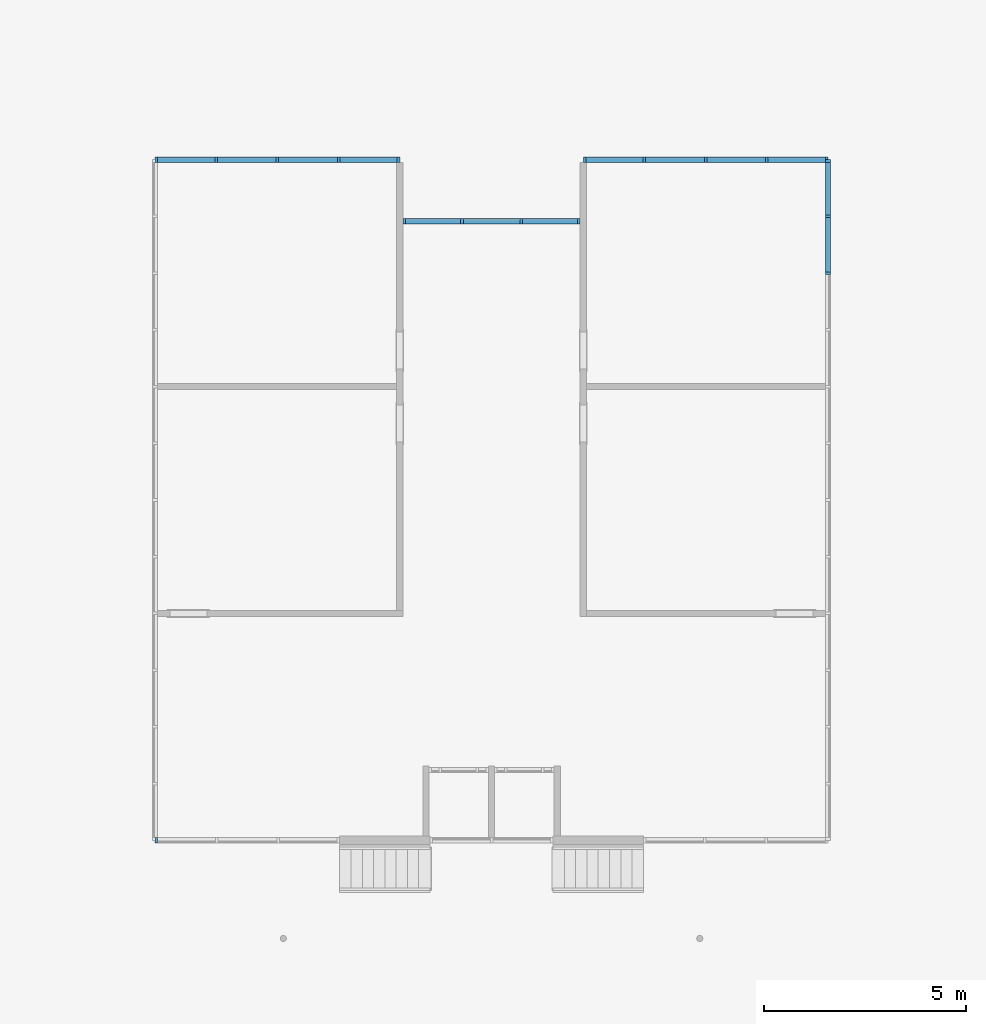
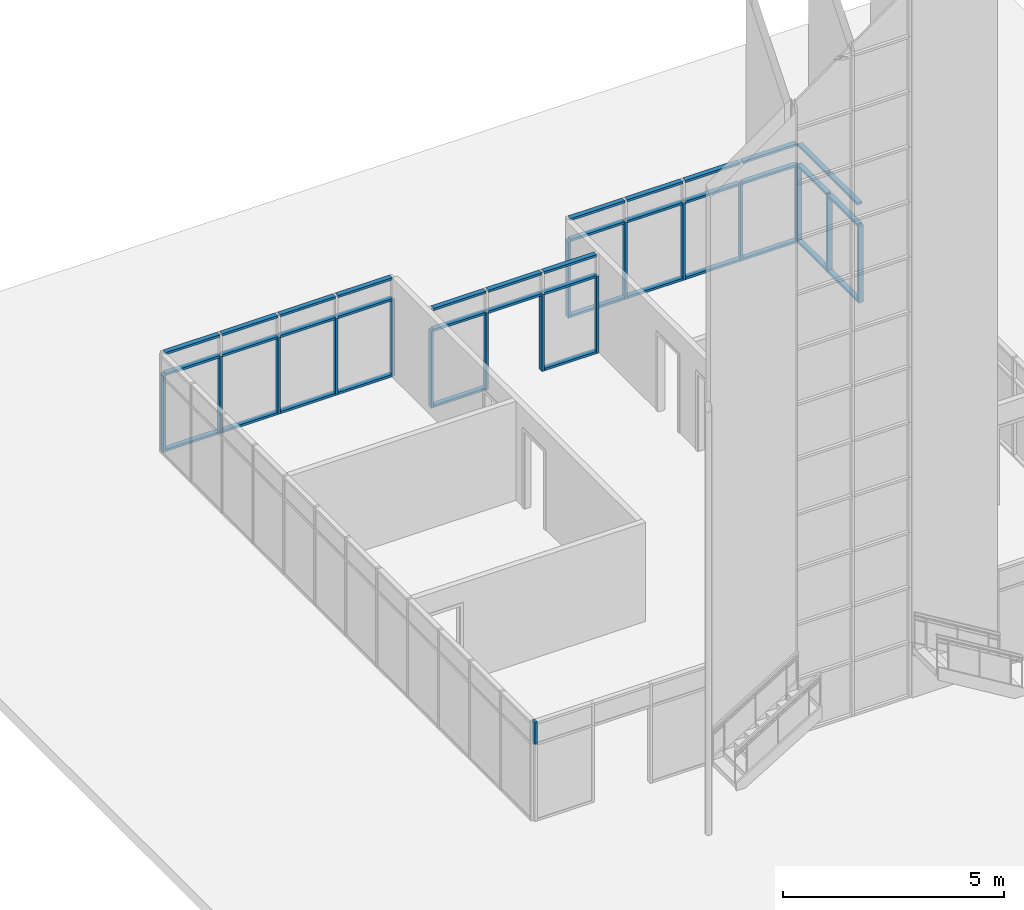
# One storey, part 4 of 12: 56 members, 5 elements without a shape of their own.
"""IFC2X3 building model written with IfcOpenShell, lengths in feet."""

from ifc_helpers import new_model, entity, si_unit, converted_unit, derived_unit, direction, frame, origin, origin_2d_with_axis, place, context, subcontext, project, spatial, rectangle, extrude, source, transform, mapped, material, type_object, type_shapes, element, aggregate, save


model = new_model("IFC2X3")

# Units and contexts
model_context = context("Model", 3, precision=0.0001, world=origin(), true_north=direction((6.12303176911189e-17, 1.0)))
body_context = subcontext(model_context, "Body", "Model", "MODEL_VIEW")
ifc_project = project(units=[converted_unit("LENGTHUNIT", "FOOT", entity("IfcRatioMeasure", 0.3048), si_unit("LENGTHUNIT", "METRE"), dimensions=[1, 0, 0, 0, 0, 0, 0]), converted_unit("AREAUNIT", "SQUARE FOOT", entity("IfcRatioMeasure", 0.09290304), si_unit("AREAUNIT", "SQUARE_METRE"), dimensions=[2, 0, 0, 0, 0, 0, 0]), converted_unit("VOLUMEUNIT", "CUBIC FOOT", entity("IfcRatioMeasure", 0.028316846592), si_unit("VOLUMEUNIT", "CUBIC_METRE"), dimensions=[3, 0, 0, 0, 0, 0, 0]), converted_unit("PLANEANGLEUNIT", "DEGREE", entity("IfcRatioMeasure", 0.0174532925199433), si_unit("PLANEANGLEUNIT", "RADIAN"), dimensions=[0, 0, 0, 0, 0, 0, 0]), si_unit("MASSUNIT", "GRAM", prefix="KILO"), derived_unit("MASSDENSITYUNIT", [(si_unit("MASSUNIT", "GRAM", prefix="KILO"), 1), (si_unit("LENGTHUNIT", "METRE"), -3)]), si_unit("TIMEUNIT", "SECOND"), si_unit("FREQUENCYUNIT", "HERTZ"), si_unit("THERMODYNAMICTEMPERATUREUNIT", "DEGREE_CELSIUS"), derived_unit("THERMALTRANSMITTANCEUNIT", [(si_unit("MASSUNIT", "GRAM", prefix="KILO"), 1), (si_unit("THERMODYNAMICTEMPERATUREUNIT", "KELVIN"), -1), (si_unit("TIMEUNIT", "SECOND"), -3)]), derived_unit("VOLUMETRICFLOWRATEUNIT", [(si_unit("LENGTHUNIT", "METRE"), 3), (si_unit("TIMEUNIT", "SECOND"), -1)]), si_unit("ELECTRICCURRENTUNIT", "AMPERE"), si_unit("ELECTRICVOLTAGEUNIT", "VOLT"), si_unit("POWERUNIT", "WATT"), si_unit("FORCEUNIT", "NEWTON"), si_unit("ILLUMINANCEUNIT", "LUX"), si_unit("LUMINOUSFLUXUNIT", "LUMEN"), si_unit("LUMINOUSINTENSITYUNIT", "CANDELA"), derived_unit("USERDEFINED", [(si_unit("MASSUNIT", "GRAM", prefix="KILO"), -1), (si_unit("LENGTHUNIT", "METRE"), -2), (si_unit("TIMEUNIT", "SECOND"), 3), (si_unit("LUMINOUSFLUXUNIT", "LUMEN"), 1)]), derived_unit("LINEARVELOCITYUNIT", [(si_unit("LENGTHUNIT", "METRE"), 1), (si_unit("TIMEUNIT", "SECOND"), -1)]), si_unit("PRESSUREUNIT", "PASCAL"), derived_unit("USERDEFINED", [(si_unit("LENGTHUNIT", "METRE"), -2), (si_unit("MASSUNIT", "GRAM", prefix="KILO"), 1), (si_unit("TIMEUNIT", "SECOND"), -2)])], contexts=[model_context])

# Site, building, storey
site_placement = place(None, origin())
site = spatial("IfcSite", under=ifc_project, at=site_placement, Name="Default", CompositionType="ELEMENT")
building_placement = place(site_placement, origin())
building = spatial("IfcBuilding", under=site, at=building_placement, CompositionType="ELEMENT")
storey_placement = place(building_placement, origin())
storey = spatial("IfcBuildingStorey", under=building, at=storey_placement, Name="Level 1", CompositionType="ELEMENT", Elevation=0.0)

# Curtain wall, member
curtain_wall_type = type_object("IfcCurtainWallType", Name="Curtain Wall:Storefront 2", PredefinedType="NOTDEFINED")
curtain_wall_1_placement = place(storey_placement, origin())
curtain_wall_1 = element("IfcCurtainWall", 1, at=curtain_wall_1_placement, inside=storey, type_object=curtain_wall_type, Name="Curtain Wall:Storefront 2", ObjectType="Curtain Wall:Storefront 2")
ifc_material = material(Name="Aluminum")
member_type_1 = type_object("IfcMemberType", Name="2.5\" x 5\" rectangular", PredefinedType="MEMBER")
shared_shape_1 = source(origin(), body_context, "Body", "SweptSolid", [
    extrude(rectangle(XDim=0.416666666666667, YDim=0.208333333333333, at=origin_2d_with_axis()), frame((-0.104166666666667, 0.0, -7.0), z_axis=(0.0, 0.0, 1.0), x_axis=(0.0, -1.0, 0.0)), (0.0, 0.0, 1.0), 7.0),
])
type_shapes(member_type_1, [shared_shape_1])
member_1_placement = place(storey_placement, frame((-41.4463748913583, 48.3505254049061, 0.0), z_axis=(0.0, 0.0, -1.0), x_axis=(1.0, 0.0, 0.0)))
member_1 = element("IfcMember", 2, at=member_1_placement, type_object=member_type_1, material=ifc_material, Name="Rectangular Mullion:2.5\" x 5\" rectangular", ObjectType="2.5\" x 5\" rectangular", context=body_context, shape_type="MappedRepresentation", body=[
    mapped(shared_shape_1, transform((0.0, 0.0, 0.0), scale=1.0)),
])

curtain_wall_2_placement = place(storey_placement, origin())
curtain_wall_2 = element("IfcCurtainWall", 3, at=curtain_wall_2_placement, inside=storey, type_object=curtain_wall_type, Name="Curtain Wall:Storefront 2", ObjectType="Curtain Wall:Storefront 2")
member_2_placement = place(storey_placement, frame((-6.65849610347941, 48.350525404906, 0.0), z_axis=(0.0, 0.0, -1.0), x_axis=(1.0, 0.0, 0.0)))
member_2 = element("IfcMember", 4, at=member_2_placement, type_object=member_type_1, material=ifc_material, Name="Rectangular Mullion:2.5\" x 5\" rectangular", ObjectType="2.5\" x 5\" rectangular", context=body_context, shape_type="MappedRepresentation", body=[
    mapped(shared_shape_1, transform((0.0, 0.0, 0.0), scale=1.0)),
])

curtain_wall_3_placement = place(storey_placement, origin())
curtain_wall_3 = element("IfcCurtainWall", 5, at=curtain_wall_3_placement, inside=storey, type_object=curtain_wall_type, Name="Curtain Wall:Storefront 2", ObjectType="Curtain Wall:Storefront 2")
member_3_placement = place(storey_placement, frame((-26.7872839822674, 43.350525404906, 0.0), z_axis=(0.0, 0.0, -1.0), x_axis=(1.0, 0.0, 0.0)))
member_3 = element("IfcMember", 6, at=member_3_placement, type_object=member_type_1, material=ifc_material, Name="Rectangular Mullion:2.5\" x 5\" rectangular", ObjectType="2.5\" x 5\" rectangular", context=body_context, shape_type="MappedRepresentation", body=[
    mapped(shared_shape_1, transform((0.0, 0.0, 0.0), scale=1.0)),
])

curtain_wall_4_placement = place(storey_placement, origin())
curtain_wall_4 = element("IfcCurtainWall", 7, at=curtain_wall_4_placement, inside=storey, type_object=curtain_wall_type, Name="Curtain Wall:Storefront 2", ObjectType="Curtain Wall:Storefront 2")
member_type_2 = type_object("IfcMemberType", Name="2.5\" x 5\" rectangular", PredefinedType="MEMBER")
shared_shape_2 = source(origin(), body_context, "Body", "SweptSolid", [
    extrude(rectangle(XDim=0.416666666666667, YDim=0.208333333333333, at=origin_2d_with_axis()), frame((-0.104166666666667, 0.0, -2.0), z_axis=(0.0, 0.0, 1.0), x_axis=(0.0, -1.0, 0.0)), (0.0, 0.0, 1.0), 2.0),
])
type_shapes(member_type_2, [shared_shape_2])
member_4_placement = place(storey_placement, frame((-61.3251627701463, -6.94114126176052, 7.0), z_axis=(0.0, 0.0, -1.0), x_axis=(-1.0, 0.0, 0.0)))
member_4 = element("IfcMember", 8, at=member_4_placement, type_object=member_type_2, material=ifc_material, Name="Rectangular Mullion:2.5\" x 5\" rectangular", ObjectType="2.5\" x 5\" rectangular", context=body_context, shape_type="MappedRepresentation", body=[
    mapped(shared_shape_2, transform((0.0, 0.0, 0.0), scale=1.0)),
])
aggregate(curtain_wall_4, [member_4])

# Member
member_type_3 = type_object("IfcMemberType", Name="2.5\" x 5\" rectangular", PredefinedType="MEMBER")
shared_shape_3 = source(origin(), body_context, "Body", "SweptSolid", [
    extrude(rectangle(XDim=0.416666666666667, YDim=0.208333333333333, at=origin_2d_with_axis()), frame((-0.104166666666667, 0.0, -7.0), z_axis=(0.0, 0.0, 1.0), x_axis=(0.0, -1.0, 0.0)), (0.0, 0.0, 1.0), 7.0),
])
type_shapes(member_type_3, [shared_shape_3])
member_5_placement = place(storey_placement, frame((-61.3251627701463, 48.3505254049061, 7.0), z_axis=(0.0, 0.0, 1.0), x_axis=(-1.0, 0.0, 0.0)))
member_5 = element("IfcMember", 9, at=member_5_placement, type_object=member_type_3, material=ifc_material, Name="Rectangular Mullion:2.5\" x 5\" rectangular", ObjectType="2.5\" x 5\" rectangular", context=body_context, shape_type="MappedRepresentation", body=[
    mapped(shared_shape_3, transform((0.0, 0.0, 0.0), scale=1.0)),
])

# Curtain wall, member
curtain_wall_5_placement = place(storey_placement, origin())
curtain_wall_5 = element("IfcCurtainWall", 10, at=curtain_wall_5_placement, inside=storey, type_object=curtain_wall_type, Name="Curtain Wall:Storefront 2", ObjectType="Curtain Wall:Storefront 2")
member_6_placement = place(storey_placement, frame((-6.65849610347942, 48.350525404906, 7.0), z_axis=(0.0, 0.0, 1.0), x_axis=(0.0, 1.0, 0.0)))
member_6 = element("IfcMember", 11, at=member_6_placement, type_object=member_type_3, material=ifc_material, Name="Rectangular Mullion:2.5\" x 5\" rectangular", ObjectType="2.5\" x 5\" rectangular", context=body_context, shape_type="MappedRepresentation", body=[
    mapped(shared_shape_3, transform((0.0, 0.0, 0.0), scale=1.0)),
])

# Member
member_7_placement = place(storey_placement, frame((-26.5372839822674, 48.350525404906, 7.0), z_axis=(0.0, 0.0, 1.0), x_axis=(-1.0, 0.0, 0.0)))
member_7 = element("IfcMember", 12, at=member_7_placement, type_object=member_type_3, material=ifc_material, Name="Rectangular Mullion:2.5\" x 5\" rectangular", ObjectType="2.5\" x 5\" rectangular", context=body_context, shape_type="MappedRepresentation", body=[
    mapped(shared_shape_3, transform((0.0, 0.0, 0.0), scale=1.0)),
])

member_8_placement = place(storey_placement, frame((-41.1963748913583, 43.3505254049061, 7.0), z_axis=(0.0, 0.0, 1.0), x_axis=(-1.0, 0.0, 0.0)))
member_8 = element("IfcMember", 13, at=member_8_placement, type_object=member_type_3, material=ifc_material, Name="Rectangular Mullion:2.5\" x 5\" rectangular", ObjectType="2.5\" x 5\" rectangular", context=body_context, shape_type="MappedRepresentation", body=[
    mapped(shared_shape_3, transform((0.0, 0.0, 0.0), scale=1.0)),
])

member_type_4 = type_object("IfcMemberType", Name="2.5\" x 5\" rectangular", PredefinedType="MEMBER")
shared_shape_4 = source(origin(), body_context, "Body", "SweptSolid", [
    extrude(rectangle(XDim=0.416666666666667, YDim=0.208333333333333, at=origin_2d_with_axis()), frame((0.0, 0.0, -7.0), z_axis=(0.0, 0.0, 1.0), x_axis=(0.0, -1.0, 0.0)), (0.0, 0.0, 1.0), 7.0),
])
type_shapes(member_type_4, [shared_shape_4])
member_9_placement = place(storey_placement, frame((-56.3554658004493, 48.3505254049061, 0.0), z_axis=(0.0, 0.0, -1.0), x_axis=(1.0, 0.0, 0.0)))
member_9 = element("IfcMember", 14, at=member_9_placement, type_object=member_type_4, material=ifc_material, Name="Rectangular Mullion:2.5\" x 5\" rectangular", ObjectType="2.5\" x 5\" rectangular", context=body_context, shape_type="MappedRepresentation", body=[
    mapped(shared_shape_4, transform((0.0, 0.0, 0.0), scale=1.0)),
])

member_10_placement = place(storey_placement, frame((-51.3857688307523, 48.3505254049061, 0.0), z_axis=(0.0, 0.0, -1.0), x_axis=(1.0, 0.0, 0.0)))
member_10 = element("IfcMember", 15, at=member_10_placement, type_object=member_type_4, material=ifc_material, Name="Rectangular Mullion:2.5\" x 5\" rectangular", ObjectType="2.5\" x 5\" rectangular", context=body_context, shape_type="MappedRepresentation", body=[
    mapped(shared_shape_4, transform((0.0, 0.0, 0.0), scale=1.0)),
])

member_11_placement = place(storey_placement, frame((-46.4160718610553, 48.3505254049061, 0.0), z_axis=(0.0, 0.0, -1.0), x_axis=(1.0, 0.0, 0.0)))
member_11 = element("IfcMember", 16, at=member_11_placement, type_object=member_type_4, material=ifc_material, Name="Rectangular Mullion:2.5\" x 5\" rectangular", ObjectType="2.5\" x 5\" rectangular", context=body_context, shape_type="MappedRepresentation", body=[
    mapped(shared_shape_4, transform((0.0, 0.0, 0.0), scale=1.0)),
])

member_12_placement = place(storey_placement, frame((-6.65849610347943, 43.7428865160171, 0.0), z_axis=(0.0, 0.0, -1.0), x_axis=(0.0, -1.0, 0.0)))
member_12 = element("IfcMember", 17, at=member_12_placement, type_object=member_type_4, material=ifc_material, Name="Rectangular Mullion:2.5\" x 5\" rectangular", ObjectType="2.5\" x 5\" rectangular", context=body_context, shape_type="MappedRepresentation", body=[
    mapped(shared_shape_4, transform((0.0, 0.0, 0.0), scale=1.0)),
])

member_13_placement = place(storey_placement, frame((-6.65849610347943, 39.1352476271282, 0.0), z_axis=(0.0, 0.0, -1.0), x_axis=(0.0, -1.0, 0.0)))
member_13 = element("IfcMember", 18, at=member_13_placement, type_object=member_type_4, material=ifc_material, Name="Rectangular Mullion:2.5\" x 5\" rectangular", ObjectType="2.5\" x 5\" rectangular", context=body_context, shape_type="MappedRepresentation", body=[
    mapped(shared_shape_4, transform((0.0, 0.0, 0.0), scale=1.0)),
])

member_14_placement = place(storey_placement, frame((-21.5675870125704, 48.350525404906, 0.0), z_axis=(0.0, 0.0, -1.0), x_axis=(1.0, 0.0, 0.0)))
member_14 = element("IfcMember", 19, at=member_14_placement, type_object=member_type_4, material=ifc_material, Name="Rectangular Mullion:2.5\" x 5\" rectangular", ObjectType="2.5\" x 5\" rectangular", context=body_context, shape_type="MappedRepresentation", body=[
    mapped(shared_shape_4, transform((0.0, 0.0, 0.0), scale=1.0)),
])

member_15_placement = place(storey_placement, frame((-16.5978900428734, 48.350525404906, 0.0), z_axis=(0.0, 0.0, -1.0), x_axis=(1.0, 0.0, 0.0)))
member_15 = element("IfcMember", 20, at=member_15_placement, type_object=member_type_4, material=ifc_material, Name="Rectangular Mullion:2.5\" x 5\" rectangular", ObjectType="2.5\" x 5\" rectangular", context=body_context, shape_type="MappedRepresentation", body=[
    mapped(shared_shape_4, transform((0.0, 0.0, 0.0), scale=1.0)),
])

member_16_placement = place(storey_placement, frame((-11.6281930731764, 48.350525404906, 0.0), z_axis=(0.0, 0.0, -1.0), x_axis=(1.0, 0.0, 0.0)))
member_16 = element("IfcMember", 21, at=member_16_placement, type_object=member_type_4, material=ifc_material, Name="Rectangular Mullion:2.5\" x 5\" rectangular", ObjectType="2.5\" x 5\" rectangular", context=body_context, shape_type="MappedRepresentation", body=[
    mapped(shared_shape_4, transform((0.0, 0.0, 0.0), scale=1.0)),
])

member_17_placement = place(storey_placement, frame((-36.393344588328, 43.3505254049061, 0.0), z_axis=(0.0, 0.0, -1.0), x_axis=(1.0, 0.0, 0.0)))
member_17 = element("IfcMember", 22, at=member_17_placement, type_object=member_type_4, material=ifc_material, Name="Rectangular Mullion:2.5\" x 5\" rectangular", ObjectType="2.5\" x 5\" rectangular", context=body_context, shape_type="MappedRepresentation", body=[
    mapped(shared_shape_4, transform((0.0, 0.0, 0.0), scale=1.0)),
])

member_18_placement = place(storey_placement, frame((-31.5903142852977, 43.350525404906, 0.0), z_axis=(0.0, 0.0, -1.0), x_axis=(1.0, 0.0, 0.0)))
member_18 = element("IfcMember", 23, at=member_18_placement, type_object=member_type_4, material=ifc_material, Name="Rectangular Mullion:2.5\" x 5\" rectangular", ObjectType="2.5\" x 5\" rectangular", context=body_context, shape_type="MappedRepresentation", body=[
    mapped(shared_shape_4, transform((0.0, 0.0, 0.0), scale=1.0)),
])

member_type_5 = type_object("IfcMemberType", Name="2.5\" x 5\" rectangular", PredefinedType="MEMBER")
shared_shape_5 = source(origin(), body_context, "Body", "SweptSolid", [
    extrude(rectangle(XDim=0.416666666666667, YDim=0.208333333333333, at=origin_2d_with_axis()), frame((-0.104166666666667, 0.0, -4.2951388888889), z_axis=(0.0, 0.0, 1.0), x_axis=(0.0, -1.0, 0.0)), (0.0, 0.0, 1.0), 4.2951388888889),
])
type_shapes(member_type_5, [shared_shape_5])
member_19_placement = place(storey_placement, frame((-6.65849610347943, 43.8470531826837, 9.0), z_axis=(0.0, -1.0, 0.0), x_axis=(0.0, 0.0, 1.0)))
member_19 = element("IfcMember", 24, at=member_19_placement, type_object=member_type_5, material=ifc_material, Name="Rectangular Mullion:2.5\" x 5\" rectangular", ObjectType="2.5\" x 5\" rectangular", context=body_context, shape_type="MappedRepresentation", body=[
    mapped(shared_shape_5, transform((0.0, 0.0, 0.0), scale=1.0)),
])

member_type_6 = type_object("IfcMemberType", Name="2.5\" x 5\" rectangular", PredefinedType="MEMBER")
shared_shape_6 = source(origin(), body_context, "Body", "SweptSolid", [
    extrude(rectangle(XDim=0.416666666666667, YDim=0.208333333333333, at=origin_2d_with_axis()), frame((-0.104166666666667, 0.0, -4.39930555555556), z_axis=(0.0, 0.0, 1.0), x_axis=(0.0, -1.0, 0.0)), (0.0, 0.0, 1.0), 4.39930555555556),
])
type_shapes(member_type_6, [shared_shape_6])
member_20_placement = place(storey_placement, frame((-6.65849610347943, 39.2394142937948, 9.0), z_axis=(0.0, -1.0, 0.0), x_axis=(0.0, 0.0, 1.0)))
member_20 = element("IfcMember", 25, at=member_20_placement, type_object=member_type_6, material=ifc_material, Name="Rectangular Mullion:2.5\" x 5\" rectangular", ObjectType="2.5\" x 5\" rectangular", context=body_context, shape_type="MappedRepresentation", body=[
    mapped(shared_shape_6, transform((0.0, 0.0, 0.0), scale=1.0)),
])

member_type_7 = type_object("IfcMemberType", Name="2.5\" x 5\" rectangular", PredefinedType="MEMBER")
shared_shape_7 = source(origin(), body_context, "Body", "SweptSolid", [
    extrude(rectangle(XDim=0.416666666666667, YDim=0.208333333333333, at=origin_2d_with_axis()), frame((-0.104166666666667, 0.0, -4.29513888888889), z_axis=(0.0, 0.0, 1.0), x_axis=(0.0, -1.0, 0.0)), (0.0, 0.0, 1.0), 4.29513888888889),
])
type_shapes(member_type_7, [shared_shape_7])
member_21_placement = place(storey_placement, frame((-6.65849610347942, 48.1421920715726, 0.0), z_axis=(0.0, 1.0, 0.0), x_axis=(0.0, 0.0, -1.0)))
member_21 = element("IfcMember", 26, at=member_21_placement, type_object=member_type_7, material=ifc_material, Name="Rectangular Mullion:2.5\" x 5\" rectangular", ObjectType="2.5\" x 5\" rectangular", context=body_context, shape_type="MappedRepresentation", body=[
    mapped(shared_shape_7, transform((0.0, 0.0, 0.0), scale=1.0)),
])

member_type_8 = type_object("IfcMemberType", Name="2.5\" x 5\" rectangular", PredefinedType="MEMBER")
shared_shape_8 = source(origin(), body_context, "Body", "SweptSolid", [
    extrude(rectangle(XDim=0.416666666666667, YDim=0.208333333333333, at=origin_2d_with_axis()), frame((-0.104166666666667, 0.0, -4.39930555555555), z_axis=(0.0, 0.0, 1.0), x_axis=(0.0, -1.0, 0.0)), (0.0, 0.0, 1.0), 4.39930555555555),
])
type_shapes(member_type_8, [shared_shape_8])
member_22_placement = place(storey_placement, frame((-6.65849610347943, 43.6387198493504, 0.0), z_axis=(0.0, 1.0, 0.0), x_axis=(0.0, 0.0, -1.0)))
member_22 = element("IfcMember", 27, at=member_22_placement, type_object=member_type_8, material=ifc_material, Name="Rectangular Mullion:2.5\" x 5\" rectangular", ObjectType="2.5\" x 5\" rectangular", context=body_context, shape_type="MappedRepresentation", body=[
    mapped(shared_shape_8, transform((0.0, 0.0, 0.0), scale=1.0)),
])

member_type_9 = type_object("IfcMemberType", Name="2.5\" x 5\" rectangular", PredefinedType="MEMBER")
shared_shape_9 = source(origin(), body_context, "Body", "SweptSolid", [
    extrude(rectangle(XDim=0.416666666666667, YDim=0.208333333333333, at=origin_2d_with_axis()), frame((0.0, 0.0, -4.29513888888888), z_axis=(0.0, 0.0, 1.0), x_axis=(0.0, -1.0, 0.0)), (0.0, 0.0, 1.0), 4.29513888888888),
])
type_shapes(member_type_9, [shared_shape_9])
member_23_placement = place(storey_placement, frame((-6.65849610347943, 43.8470531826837, 7.0), z_axis=(0.0, -1.0, 0.0), x_axis=(0.0, 0.0, 1.0)))
member_23 = element("IfcMember", 28, at=member_23_placement, type_object=member_type_9, material=ifc_material, Name="Rectangular Mullion:2.5\" x 5\" rectangular", ObjectType="2.5\" x 5\" rectangular", context=body_context, shape_type="MappedRepresentation", body=[
    mapped(shared_shape_9, transform((0.0, 0.0, 0.0), scale=1.0)),
])

member_type_10 = type_object("IfcMemberType", Name="2.5\" x 5\" rectangular", PredefinedType="MEMBER")
shared_shape_10 = source(origin(), body_context, "Body", "SweptSolid", [
    extrude(rectangle(XDim=0.416666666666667, YDim=0.208333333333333, at=origin_2d_with_axis()), frame((0.0, 0.0, -4.39930555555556), z_axis=(0.0, 0.0, 1.0), x_axis=(0.0, -1.0, 0.0)), (0.0, 0.0, 1.0), 4.39930555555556),
])
type_shapes(member_type_10, [shared_shape_10])
member_24_placement = place(storey_placement, frame((-6.65849610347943, 39.2394142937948, 7.0), z_axis=(0.0, -1.0, 0.0), x_axis=(0.0, 0.0, 1.0)))
member_24 = element("IfcMember", 29, at=member_24_placement, type_object=member_type_10, material=ifc_material, Name="Rectangular Mullion:2.5\" x 5\" rectangular", ObjectType="2.5\" x 5\" rectangular", context=body_context, shape_type="MappedRepresentation", body=[
    mapped(shared_shape_10, transform((0.0, 0.0, 0.0), scale=1.0)),
])

aggregate(curtain_wall_5, [member_19, member_20, member_21, member_22, member_6, member_23, member_24, member_12, member_13])

member_type_11 = type_object("IfcMemberType", Name="2.5\" x 5\" rectangular", PredefinedType="MEMBER")
shared_shape_11 = source(origin(), body_context, "Body", "SweptSolid", [
    extrude(rectangle(XDim=0.416666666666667, YDim=0.208333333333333, at=origin_2d_with_axis()), frame((-0.104166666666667, 0.0, -4.65719696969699), z_axis=(0.0, 0.0, 1.0), x_axis=(0.0, -1.0, 0.0)), (0.0, 0.0, 1.0), 4.65719696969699),
])
type_shapes(member_type_11, [shared_shape_11])
member_25_placement = place(storey_placement, frame((-41.6547082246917, 48.3505254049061, 9.0), z_axis=(1.0, 0.0, 0.0), x_axis=(0.0, 0.0, 1.0)))
member_25 = element("IfcMember", 30, at=member_25_placement, type_object=member_type_11, material=ifc_material, Name="Rectangular Mullion:2.5\" x 5\" rectangular", ObjectType="2.5\" x 5\" rectangular", context=body_context, shape_type="MappedRepresentation", body=[
    mapped(shared_shape_11, transform((0.0, 0.0, 0.0), scale=1.0)),
])

member_26_placement = place(storey_placement, frame((-56.4596324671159, 48.3505254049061, 9.0), z_axis=(1.0, 0.0, 0.0), x_axis=(0.0, 0.0, 1.0)))
member_26 = element("IfcMember", 31, at=member_26_placement, type_object=member_type_11, material=ifc_material, Name="Rectangular Mullion:2.5\" x 5\" rectangular", ObjectType="2.5\" x 5\" rectangular", context=body_context, shape_type="MappedRepresentation", body=[
    mapped(shared_shape_11, transform((0.0, 0.0, 0.0), scale=1.0)),
])

member_27_placement = place(storey_placement, frame((-6.86682943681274, 48.350525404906, 9.0), z_axis=(1.0, 0.0, 0.0), x_axis=(0.0, 0.0, 1.0)))
member_27 = element("IfcMember", 32, at=member_27_placement, type_object=member_type_11, material=ifc_material, Name="Rectangular Mullion:2.5\" x 5\" rectangular", ObjectType="2.5\" x 5\" rectangular", context=body_context, shape_type="MappedRepresentation", body=[
    mapped(shared_shape_11, transform((0.0, 0.0, 0.0), scale=1.0)),
])

member_28_placement = place(storey_placement, frame((-21.671753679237, 48.350525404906, 9.0), z_axis=(1.0, 0.0, 0.0), x_axis=(0.0, 0.0, 1.0)))
member_28 = element("IfcMember", 33, at=member_28_placement, type_object=member_type_11, material=ifc_material, Name="Rectangular Mullion:2.5\" x 5\" rectangular", ObjectType="2.5\" x 5\" rectangular", context=body_context, shape_type="MappedRepresentation", body=[
    mapped(shared_shape_11, transform((0.0, 0.0, 0.0), scale=1.0)),
])

member_type_12 = type_object("IfcMemberType", Name="2.5\" x 5\" rectangular", PredefinedType="MEMBER")
shared_shape_12 = source(origin(), body_context, "Body", "SweptSolid", [
    extrude(rectangle(XDim=0.416666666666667, YDim=0.208333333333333, at=origin_2d_with_axis()), frame((-0.104166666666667, 0.0, -4.76136363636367), z_axis=(0.0, 0.0, 1.0), x_axis=(0.0, -1.0, 0.0)), (0.0, 0.0, 1.0), 4.76136363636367),
])
type_shapes(member_type_12, [shared_shape_12])
member_29_placement = place(storey_placement, frame((-51.4899354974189, 48.3505254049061, 9.0), z_axis=(1.0, 0.0, 0.0), x_axis=(0.0, 0.0, 1.0)))
member_29 = element("IfcMember", 34, at=member_29_placement, type_object=member_type_12, material=ifc_material, Name="Rectangular Mullion:2.5\" x 5\" rectangular", ObjectType="2.5\" x 5\" rectangular", context=body_context, shape_type="MappedRepresentation", body=[
    mapped(shared_shape_12, transform((0.0, 0.0, 0.0), scale=1.0)),
])

member_30_placement = place(storey_placement, frame((-46.520238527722, 48.3505254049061, 9.0), z_axis=(1.0, 0.0, 0.0), x_axis=(0.0, 0.0, 1.0)))
member_30 = element("IfcMember", 35, at=member_30_placement, type_object=member_type_12, material=ifc_material, Name="Rectangular Mullion:2.5\" x 5\" rectangular", ObjectType="2.5\" x 5\" rectangular", context=body_context, shape_type="MappedRepresentation", body=[
    mapped(shared_shape_12, transform((0.0, 0.0, 0.0), scale=1.0)),
])

member_31_placement = place(storey_placement, frame((-16.70205670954, 48.350525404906, 9.0), z_axis=(1.0, 0.0, 0.0), x_axis=(0.0, 0.0, 1.0)))
member_31 = element("IfcMember", 36, at=member_31_placement, type_object=member_type_12, material=ifc_material, Name="Rectangular Mullion:2.5\" x 5\" rectangular", ObjectType="2.5\" x 5\" rectangular", context=body_context, shape_type="MappedRepresentation", body=[
    mapped(shared_shape_12, transform((0.0, 0.0, 0.0), scale=1.0)),
])

member_32_placement = place(storey_placement, frame((-11.7323597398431, 48.350525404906, 9.0), z_axis=(1.0, 0.0, 0.0), x_axis=(0.0, 0.0, 1.0)))
member_32 = element("IfcMember", 37, at=member_32_placement, type_object=member_type_12, material=ifc_material, Name="Rectangular Mullion:2.5\" x 5\" rectangular", ObjectType="2.5\" x 5\" rectangular", context=body_context, shape_type="MappedRepresentation", body=[
    mapped(shared_shape_12, transform((0.0, 0.0, 0.0), scale=1.0)),
])

member_type_13 = type_object("IfcMemberType", Name="2.5\" x 5\" rectangular", PredefinedType="MEMBER")
shared_shape_13 = source(origin(), body_context, "Body", "SweptSolid", [
    extrude(rectangle(XDim=0.416666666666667, YDim=0.208333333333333, at=origin_2d_with_axis()), frame((-0.104166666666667, 0.0, -4.65719696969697), z_axis=(0.0, 0.0, 1.0), x_axis=(0.0, -1.0, 0.0)), (0.0, 0.0, 1.0), 4.65719696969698),
])
type_shapes(member_type_13, [shared_shape_13])
member_33_placement = place(storey_placement, frame((-61.1168294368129, 48.3505254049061, 0.0), z_axis=(-1.0, 0.0, 0.0), x_axis=(0.0, 0.0, -1.0)))
member_33 = element("IfcMember", 38, at=member_33_placement, type_object=member_type_13, material=ifc_material, Name="Rectangular Mullion:2.5\" x 5\" rectangular", ObjectType="2.5\" x 5\" rectangular", context=body_context, shape_type="MappedRepresentation", body=[
    mapped(shared_shape_13, transform((0.0, 0.0, 0.0), scale=1.0)),
])

member_34_placement = place(storey_placement, frame((-46.3119051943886, 48.3505254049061, 0.0), z_axis=(-1.0, 0.0, 0.0), x_axis=(0.0, 0.0, -1.0)))
member_34 = element("IfcMember", 39, at=member_34_placement, type_object=member_type_13, material=ifc_material, Name="Rectangular Mullion:2.5\" x 5\" rectangular", ObjectType="2.5\" x 5\" rectangular", context=body_context, shape_type="MappedRepresentation", body=[
    mapped(shared_shape_13, transform((0.0, 0.0, 0.0), scale=1.0)),
])

member_35_placement = place(storey_placement, frame((-26.328950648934, 48.350525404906, 0.0), z_axis=(-1.0, 0.0, 0.0), x_axis=(0.0, 0.0, -1.0)))
member_35 = element("IfcMember", 40, at=member_35_placement, type_object=member_type_13, material=ifc_material, Name="Rectangular Mullion:2.5\" x 5\" rectangular", ObjectType="2.5\" x 5\" rectangular", context=body_context, shape_type="MappedRepresentation", body=[
    mapped(shared_shape_13, transform((0.0, 0.0, 0.0), scale=1.0)),
])

member_36_placement = place(storey_placement, frame((-11.5240264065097, 48.350525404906, 0.0), z_axis=(-1.0, 0.0, 0.0), x_axis=(0.0, 0.0, -1.0)))
member_36 = element("IfcMember", 41, at=member_36_placement, type_object=member_type_13, material=ifc_material, Name="Rectangular Mullion:2.5\" x 5\" rectangular", ObjectType="2.5\" x 5\" rectangular", context=body_context, shape_type="MappedRepresentation", body=[
    mapped(shared_shape_13, transform((0.0, 0.0, 0.0), scale=1.0)),
])

member_type_14 = type_object("IfcMemberType", Name="2.5\" x 5\" rectangular", PredefinedType="MEMBER")
shared_shape_14 = source(origin(), body_context, "Body", "SweptSolid", [
    extrude(rectangle(XDim=0.416666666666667, YDim=0.208333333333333, at=origin_2d_with_axis()), frame((-0.104166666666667, 0.0, -4.76136363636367), z_axis=(0.0, 0.0, 1.0), x_axis=(0.0, -1.0, 0.0)), (0.0, 0.0, 1.0), 4.76136363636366),
])
type_shapes(member_type_14, [shared_shape_14])
member_37_placement = place(storey_placement, frame((-56.2512991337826, 48.3505254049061, 0.0), z_axis=(-1.0, 0.0, 0.0), x_axis=(0.0, 0.0, -1.0)))
member_37 = element("IfcMember", 42, at=member_37_placement, type_object=member_type_14, material=ifc_material, Name="Rectangular Mullion:2.5\" x 5\" rectangular", ObjectType="2.5\" x 5\" rectangular", context=body_context, shape_type="MappedRepresentation", body=[
    mapped(shared_shape_14, transform((0.0, 0.0, 0.0), scale=1.0)),
])

member_38_placement = place(storey_placement, frame((-51.2816021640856, 48.3505254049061, 0.0), z_axis=(-1.0, 0.0, 0.0), x_axis=(0.0, 0.0, -1.0)))
member_38 = element("IfcMember", 43, at=member_38_placement, type_object=member_type_14, material=ifc_material, Name="Rectangular Mullion:2.5\" x 5\" rectangular", ObjectType="2.5\" x 5\" rectangular", context=body_context, shape_type="MappedRepresentation", body=[
    mapped(shared_shape_14, transform((0.0, 0.0, 0.0), scale=1.0)),
])

member_39_placement = place(storey_placement, frame((-21.4634203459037, 48.350525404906, 0.0), z_axis=(-1.0, 0.0, 0.0), x_axis=(0.0, 0.0, -1.0)))
member_39 = element("IfcMember", 44, at=member_39_placement, type_object=member_type_14, material=ifc_material, Name="Rectangular Mullion:2.5\" x 5\" rectangular", ObjectType="2.5\" x 5\" rectangular", context=body_context, shape_type="MappedRepresentation", body=[
    mapped(shared_shape_14, transform((0.0, 0.0, 0.0), scale=1.0)),
])

member_40_placement = place(storey_placement, frame((-16.4937233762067, 48.350525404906, 0.0), z_axis=(-1.0, 0.0, 0.0), x_axis=(0.0, 0.0, -1.0)))
member_40 = element("IfcMember", 45, at=member_40_placement, type_object=member_type_14, material=ifc_material, Name="Rectangular Mullion:2.5\" x 5\" rectangular", ObjectType="2.5\" x 5\" rectangular", context=body_context, shape_type="MappedRepresentation", body=[
    mapped(shared_shape_14, transform((0.0, 0.0, 0.0), scale=1.0)),
])

member_type_15 = type_object("IfcMemberType", Name="2.5\" x 5\" rectangular", PredefinedType="MEMBER")
shared_shape_15 = source(origin(), body_context, "Body", "SweptSolid", [
    extrude(rectangle(XDim=0.416666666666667, YDim=0.208333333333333, at=origin_2d_with_axis()), frame((0.0, 0.0, -4.65719696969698), z_axis=(0.0, 0.0, 1.0), x_axis=(0.0, -1.0, 0.0)), (0.0, 0.0, 1.0), 4.65719696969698),
])
type_shapes(member_type_15, [shared_shape_15])
member_41_placement = place(storey_placement, frame((-56.4596324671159, 48.3505254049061, 7.0), z_axis=(1.0, 0.0, 0.0), x_axis=(0.0, 0.0, 1.0)))
member_41 = element("IfcMember", 46, at=member_41_placement, type_object=member_type_15, material=ifc_material, Name="Rectangular Mullion:2.5\" x 5\" rectangular", ObjectType="2.5\" x 5\" rectangular", context=body_context, shape_type="MappedRepresentation", body=[
    mapped(shared_shape_15, transform((0.0, 0.0, 0.0), scale=1.0)),
])

member_42_placement = place(storey_placement, frame((-41.6547082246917, 48.3505254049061, 7.0), z_axis=(1.0, 0.0, 0.0), x_axis=(0.0, 0.0, 1.0)))
member_42 = element("IfcMember", 47, at=member_42_placement, type_object=member_type_15, material=ifc_material, Name="Rectangular Mullion:2.5\" x 5\" rectangular", ObjectType="2.5\" x 5\" rectangular", context=body_context, shape_type="MappedRepresentation", body=[
    mapped(shared_shape_15, transform((0.0, 0.0, 0.0), scale=1.0)),
])

member_43_placement = place(storey_placement, frame((-21.671753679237, 48.350525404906, 7.0), z_axis=(1.0, 0.0, 0.0), x_axis=(0.0, 0.0, 1.0)))
member_43 = element("IfcMember", 48, at=member_43_placement, type_object=member_type_15, material=ifc_material, Name="Rectangular Mullion:2.5\" x 5\" rectangular", ObjectType="2.5\" x 5\" rectangular", context=body_context, shape_type="MappedRepresentation", body=[
    mapped(shared_shape_15, transform((0.0, 0.0, 0.0), scale=1.0)),
])

member_44_placement = place(storey_placement, frame((-6.86682943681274, 48.350525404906, 7.0), z_axis=(1.0, 0.0, 0.0), x_axis=(0.0, 0.0, 1.0)))
member_44 = element("IfcMember", 49, at=member_44_placement, type_object=member_type_15, material=ifc_material, Name="Rectangular Mullion:2.5\" x 5\" rectangular", ObjectType="2.5\" x 5\" rectangular", context=body_context, shape_type="MappedRepresentation", body=[
    mapped(shared_shape_15, transform((0.0, 0.0, 0.0), scale=1.0)),
])

member_type_16 = type_object("IfcMemberType", Name="2.5\" x 5\" rectangular", PredefinedType="MEMBER")
shared_shape_16 = source(origin(), body_context, "Body", "SweptSolid", [
    extrude(rectangle(XDim=0.416666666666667, YDim=0.208333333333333, at=origin_2d_with_axis()), frame((0.0, 0.0, -4.76136363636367), z_axis=(0.0, 0.0, 1.0), x_axis=(0.0, -1.0, 0.0)), (0.0, 0.0, 1.0), 4.76136363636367),
])
type_shapes(member_type_16, [shared_shape_16])
member_45_placement = place(storey_placement, frame((-51.4899354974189, 48.3505254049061, 7.0), z_axis=(1.0, 0.0, 0.0), x_axis=(0.0, 0.0, 1.0)))
member_45 = element("IfcMember", 50, at=member_45_placement, type_object=member_type_16, material=ifc_material, Name="Rectangular Mullion:2.5\" x 5\" rectangular", ObjectType="2.5\" x 5\" rectangular", context=body_context, shape_type="MappedRepresentation", body=[
    mapped(shared_shape_16, transform((0.0, 0.0, 0.0), scale=1.0)),
])

member_46_placement = place(storey_placement, frame((-46.520238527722, 48.3505254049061, 7.0), z_axis=(1.0, 0.0, 0.0), x_axis=(0.0, 0.0, 1.0)))
member_46 = element("IfcMember", 51, at=member_46_placement, type_object=member_type_16, material=ifc_material, Name="Rectangular Mullion:2.5\" x 5\" rectangular", ObjectType="2.5\" x 5\" rectangular", context=body_context, shape_type="MappedRepresentation", body=[
    mapped(shared_shape_16, transform((0.0, 0.0, 0.0), scale=1.0)),
])

aggregate(curtain_wall_1, [member_25, member_26, member_29, member_30, member_33, member_37, member_38, member_34, member_1, member_5, member_41, member_45, member_46, member_42, member_9, member_10, member_11])

member_47_placement = place(storey_placement, frame((-16.70205670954, 48.350525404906, 7.0), z_axis=(1.0, 0.0, 0.0), x_axis=(0.0, 0.0, 1.0)))
member_47 = element("IfcMember", 52, at=member_47_placement, type_object=member_type_16, material=ifc_material, Name="Rectangular Mullion:2.5\" x 5\" rectangular", ObjectType="2.5\" x 5\" rectangular", context=body_context, shape_type="MappedRepresentation", body=[
    mapped(shared_shape_16, transform((0.0, 0.0, 0.0), scale=1.0)),
])

member_48_placement = place(storey_placement, frame((-11.7323597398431, 48.350525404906, 7.0), z_axis=(1.0, 0.0, 0.0), x_axis=(0.0, 0.0, 1.0)))
member_48 = element("IfcMember", 53, at=member_48_placement, type_object=member_type_16, material=ifc_material, Name="Rectangular Mullion:2.5\" x 5\" rectangular", ObjectType="2.5\" x 5\" rectangular", context=body_context, shape_type="MappedRepresentation", body=[
    mapped(shared_shape_16, transform((0.0, 0.0, 0.0), scale=1.0)),
])

aggregate(curtain_wall_2, [member_27, member_28, member_31, member_32, member_35, member_39, member_40, member_36, member_2, member_7, member_43, member_47, member_48, member_44, member_14, member_15, member_16])

member_type_17 = type_object("IfcMemberType", Name="2.5\" x 5\" rectangular", PredefinedType="MEMBER")
shared_shape_17 = source(origin(), body_context, "Body", "SweptSolid", [
    extrude(rectangle(XDim=0.416666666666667, YDim=0.208333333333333, at=origin_2d_with_axis()), frame((-0.104166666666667, 0.0, -4.49053030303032), z_axis=(0.0, 0.0, 1.0), x_axis=(0.0, -1.0, 0.0)), (0.0, 0.0, 1.0), 4.49053030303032),
])
type_shapes(member_type_17, [shared_shape_17])
member_49_placement = place(storey_placement, frame((-26.9956173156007, 43.350525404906, 9.0), z_axis=(1.0, 0.0, 0.0), x_axis=(0.0, 0.0, 1.0)))
member_49 = element("IfcMember", 54, at=member_49_placement, type_object=member_type_17, material=ifc_material, Name="Rectangular Mullion:2.5\" x 5\" rectangular", ObjectType="2.5\" x 5\" rectangular", context=body_context, shape_type="MappedRepresentation", body=[
    mapped(shared_shape_17, transform((0.0, 0.0, 0.0), scale=1.0)),
])

member_50_placement = place(storey_placement, frame((-36.4975112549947, 43.3505254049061, 9.0), z_axis=(1.0, 0.0, 0.0), x_axis=(0.0, 0.0, 1.0)))
member_50 = element("IfcMember", 55, at=member_50_placement, type_object=member_type_17, material=ifc_material, Name="Rectangular Mullion:2.5\" x 5\" rectangular", ObjectType="2.5\" x 5\" rectangular", context=body_context, shape_type="MappedRepresentation", body=[
    mapped(shared_shape_17, transform((0.0, 0.0, 0.0), scale=1.0)),
])

member_type_18 = type_object("IfcMemberType", Name="2.5\" x 5\" rectangular", PredefinedType="MEMBER")
shared_shape_18 = source(origin(), body_context, "Body", "SweptSolid", [
    extrude(rectangle(XDim=0.416666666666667, YDim=0.208333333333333, at=origin_2d_with_axis()), frame((-0.104166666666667, 0.0, -4.59469696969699), z_axis=(0.0, 0.0, 1.0), x_axis=(0.0, -1.0, 0.0)), (0.0, 0.0, 1.0), 4.59469696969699),
])
type_shapes(member_type_18, [shared_shape_18])
member_51_placement = place(storey_placement, frame((-31.6944809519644, 43.350525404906, 9.0), z_axis=(1.0, 0.0, 0.0), x_axis=(0.0, 0.0, 1.0)))
member_51 = element("IfcMember", 56, at=member_51_placement, type_object=member_type_18, material=ifc_material, Name="Rectangular Mullion:2.5\" x 5\" rectangular", ObjectType="2.5\" x 5\" rectangular", context=body_context, shape_type="MappedRepresentation", body=[
    mapped(shared_shape_18, transform((0.0, 0.0, 0.0), scale=1.0)),
])

member_type_19 = type_object("IfcMemberType", Name="2.5\" x 5\" rectangular", PredefinedType="MEMBER")
shared_shape_19 = source(origin(), body_context, "Body", "SweptSolid", [
    extrude(rectangle(XDim=0.416666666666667, YDim=0.208333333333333, at=origin_2d_with_axis()), frame((-0.104166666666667, 0.0, -4.49053030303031), z_axis=(0.0, 0.0, 1.0), x_axis=(0.0, -1.0, 0.0)), (0.0, 0.0, 1.0), 4.49053030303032),
])
type_shapes(member_type_19, [shared_shape_19])
member_52_placement = place(storey_placement, frame((-40.988041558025, 43.3505254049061, 0.0), z_axis=(-1.0, 0.0, 0.0), x_axis=(0.0, 0.0, -1.0)))
member_52 = element("IfcMember", 57, at=member_52_placement, type_object=member_type_19, material=ifc_material, Name="Rectangular Mullion:2.5\" x 5\" rectangular", ObjectType="2.5\" x 5\" rectangular", context=body_context, shape_type="MappedRepresentation", body=[
    mapped(shared_shape_19, transform((0.0, 0.0, 0.0), scale=1.0)),
])

member_53_placement = place(storey_placement, frame((-31.486147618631, 43.350525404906, 0.0), z_axis=(-1.0, 0.0, 0.0), x_axis=(0.0, 0.0, -1.0)))
member_53 = element("IfcMember", 58, at=member_53_placement, type_object=member_type_19, material=ifc_material, Name="Rectangular Mullion:2.5\" x 5\" rectangular", ObjectType="2.5\" x 5\" rectangular", context=body_context, shape_type="MappedRepresentation", body=[
    mapped(shared_shape_19, transform((0.0, 0.0, 0.0), scale=1.0)),
])

member_type_20 = type_object("IfcMemberType", Name="2.5\" x 5\" rectangular", PredefinedType="MEMBER")
shared_shape_20 = source(origin(), body_context, "Body", "SweptSolid", [
    extrude(rectangle(XDim=0.416666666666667, YDim=0.208333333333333, at=origin_2d_with_axis()), frame((0.0, 0.0, -4.49053030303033), z_axis=(0.0, 0.0, 1.0), x_axis=(0.0, -1.0, 0.0)), (0.0, 0.0, 1.0), 4.49053030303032),
])
type_shapes(member_type_20, [shared_shape_20])
member_54_placement = place(storey_placement, frame((-36.4975112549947, 43.3505254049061, 7.0), z_axis=(1.0, 0.0, 0.0), x_axis=(0.0, 0.0, 1.0)))
member_54 = element("IfcMember", 59, at=member_54_placement, type_object=member_type_20, material=ifc_material, Name="Rectangular Mullion:2.5\" x 5\" rectangular", ObjectType="2.5\" x 5\" rectangular", context=body_context, shape_type="MappedRepresentation", body=[
    mapped(shared_shape_20, transform((0.0, 0.0, 0.0), scale=1.0)),
])

member_55_placement = place(storey_placement, frame((-26.9956173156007, 43.350525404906, 7.0), z_axis=(1.0, 0.0, 0.0), x_axis=(0.0, 0.0, 1.0)))
member_55 = element("IfcMember", 60, at=member_55_placement, type_object=member_type_20, material=ifc_material, Name="Rectangular Mullion:2.5\" x 5\" rectangular", ObjectType="2.5\" x 5\" rectangular", context=body_context, shape_type="MappedRepresentation", body=[
    mapped(shared_shape_20, transform((0.0, 0.0, 0.0), scale=1.0)),
])

member_type_21 = type_object("IfcMemberType", Name="2.5\" x 5\" rectangular", PredefinedType="MEMBER")
shared_shape_21 = source(origin(), body_context, "Body", "SweptSolid", [
    extrude(rectangle(XDim=0.416666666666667, YDim=0.208333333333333, at=origin_2d_with_axis()), frame((0.0, 0.0, -4.59469696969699), z_axis=(0.0, 0.0, 1.0), x_axis=(0.0, -1.0, 0.0)), (0.0, 0.0, 1.0), 4.59469696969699),
])
type_shapes(member_type_21, [shared_shape_21])
member_56_placement = place(storey_placement, frame((-31.6944809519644, 43.350525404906, 7.0), z_axis=(1.0, 0.0, 0.0), x_axis=(0.0, 0.0, 1.0)))
member_56 = element("IfcMember", 61, at=member_56_placement, type_object=member_type_21, material=ifc_material, Name="Rectangular Mullion:2.5\" x 5\" rectangular", ObjectType="2.5\" x 5\" rectangular", context=body_context, shape_type="MappedRepresentation", body=[
    mapped(shared_shape_21, transform((0.0, 0.0, 0.0), scale=1.0)),
])

aggregate(curtain_wall_3, [member_49, member_50, member_51, member_52, member_53, member_3, member_8, member_54, member_56, member_55, member_17, member_18])

save(model, "model.ifc")
